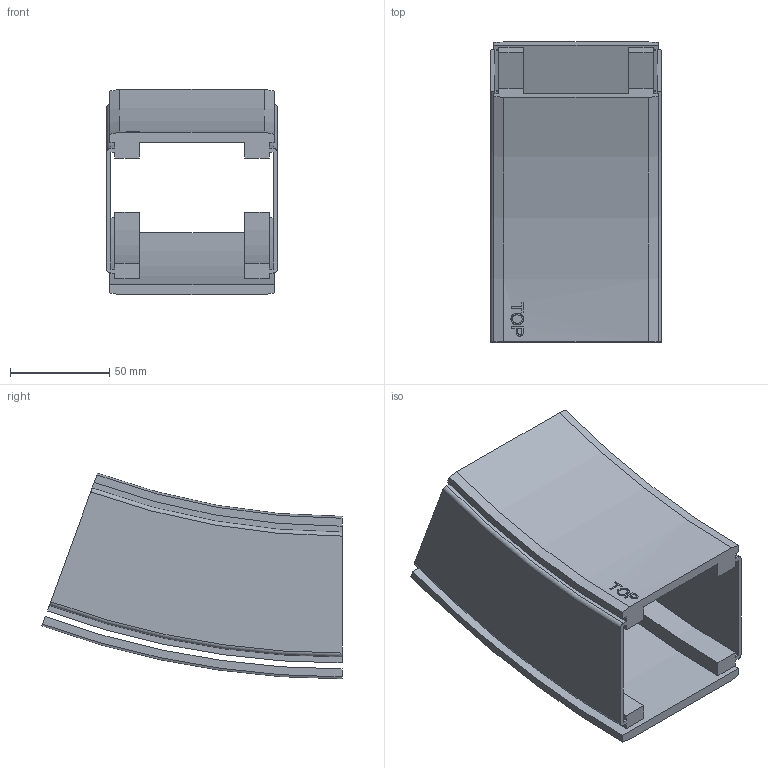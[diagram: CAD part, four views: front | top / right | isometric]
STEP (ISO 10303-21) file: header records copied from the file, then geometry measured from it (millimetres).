
FILE_DESCRIPTION(/* description */ ('VERTIKALKURVA S530 R400'),/* implementation_level */ '2;1');
FILE_NAME(/* name */ '530-5645+830-2000-UPP-01.stp',/* time_stamp */ '2022-09-21T07:04:32+02:00',/* author */ ('Mathias.Dore'),/* organization */ (''),/* preprocessor_version */ 'ST-DEVELOPER v19.2',/* originating_system */ 'Autodesk Inventor 2023',/* authorisation */ '');
FILE_SCHEMA (('AUTOMOTIVE_DESIGN { 1 0 10303 214 3 1 1 }'));
Length unit declared in the file: millimetre
Products named in the file (1): 530-5645+830-2000-UPP-01
Bounding box: 86 x 151.34 x 103.74 mm (x, y, z)
Volume: 207710.8 mm3; surface area: 104148.3 mm2
Topology: 2 solids, 2 shells, 87 faces, 234 edges, 156 vertices
Faces by surface type: plane 40, cylinder 25, bspline 14, cone 4, torus 4
Entity records: 7333 total; most frequent: CARTESIAN_POINT 5134, ORIENTED_EDGE 468, DIRECTION 408, EDGE_CURVE 234, VERTEX_POINT 156, AXIS2_PLACEMENT_3D 141, LINE 126, VECTOR 126
